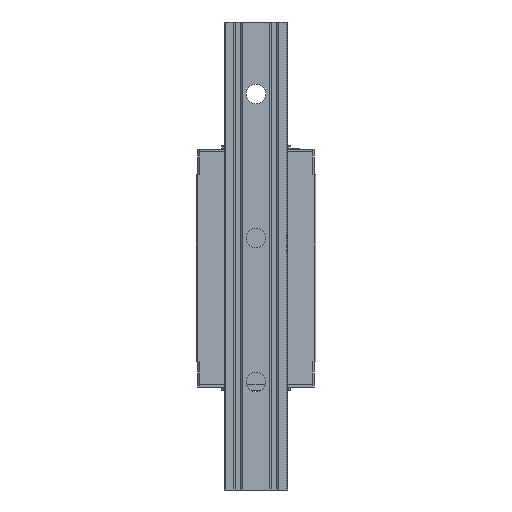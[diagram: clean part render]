
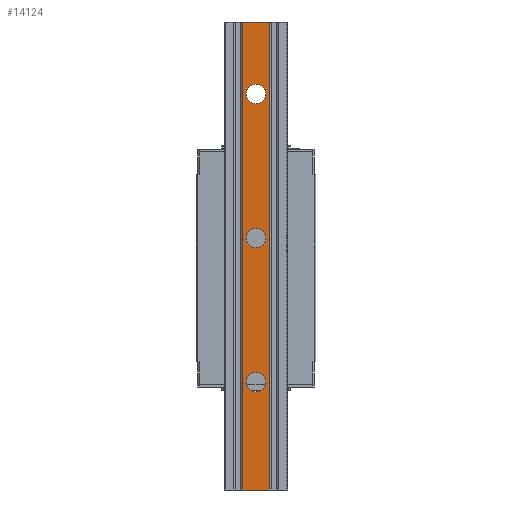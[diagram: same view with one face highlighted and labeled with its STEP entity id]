
A CAD part, front view. The second image highlights one B-rep face of the part: STEP entity #14124.
In plain terms, the highlighted planar face has unit normal (0, -1, 0).
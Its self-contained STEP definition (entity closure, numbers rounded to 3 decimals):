
#60 = LINE ( 'NONE', #5384, #15746 ) ;
#99 = ORIENTED_EDGE ( 'NONE', *, *, #13689, .T. ) ;
#294 = DIRECTION ( 'NONE',  ( 0., 0., 1. ) ) ;
#360 = EDGE_CURVE ( 'NONE', #8775, #13645, #4592, .T. ) ;
#419 = CARTESIAN_POINT ( 'NONE',  ( 0., 0., -52. ) ) ;
#465 = CARTESIAN_POINT ( 'NONE',  ( 0., 0., -60. ) ) ;
#486 = CARTESIAN_POINT ( 'NONE',  ( 11.357, 0., 0. ) ) ;
#826 = FACE_OUTER_BOUND ( 'NONE', #4667, .T. ) ;
#886 = VERTEX_POINT ( 'NONE', #8551 ) ;
#1062 = EDGE_CURVE ( 'NONE', #1435, #8775, #60, .T. ) ;
#1208 = DIRECTION ( 'NONE',  ( 0., 1., 0. ) ) ;
#1279 = EDGE_CURVE ( 'NONE', #3085, #6221, #10754, .T. ) ;
#1421 = CARTESIAN_POINT ( 'NONE',  ( 0., 0., -180. ) ) ;
#1435 = VERTEX_POINT ( 'NONE', #486 ) ;
#1952 = DIRECTION ( 'NONE',  ( 0., 1., 0. ) ) ;
#2003 = LINE ( 'NONE', #15290, #5419 ) ;
#2060 = DIRECTION ( 'NONE',  ( 0., -1., 0. ) ) ;
#2261 = DIRECTION ( 'NONE',  ( 0., 0., 1. ) ) ;
#2303 = PLANE ( 'NONE',  #15375 ) ;
#2452 = LINE ( 'NONE', #17201, #10060 ) ;
#2475 = DIRECTION ( 'NONE',  ( 0., 0., 1. ) ) ;
#2485 = DIRECTION ( 'NONE',  ( -1., 0., 0. ) ) ;
#2808 = CIRCLE ( 'NONE', #13722, 8. ) ;
#2997 = CARTESIAN_POINT ( 'NONE',  ( 0., 0., -180. ) ) ;
#3085 = VERTEX_POINT ( 'NONE', #7676 ) ;
#3192 = AXIS2_PLACEMENT_3D ( 'NONE', #6095, #1952, #16886 ) ;
#3794 = DIRECTION ( 'NONE',  ( 0., 0., -1. ) ) ;
#4186 = ORIENTED_EDGE ( 'NONE', *, *, #1062, .T. ) ;
#4211 = EDGE_CURVE ( 'NONE', #10090, #15950, #11887, .T. ) ;
#4592 = LINE ( 'NONE', #13940, #12955 ) ;
#4667 = EDGE_LOOP ( 'NONE', ( #8690, #6143, #6021, #4186 ) ) ;
#4692 = FACE_BOUND ( 'NONE', #16792, .T. ) ;
#4703 = EDGE_CURVE ( 'NONE', #13645, #16209, #2003, .T. ) ;
#5149 = EDGE_CURVE ( 'NONE', #16209, #1435, #2452, .T. ) ;
#5295 = DIRECTION ( 'NONE',  ( 0., 1., 0. ) ) ;
#5371 = CARTESIAN_POINT ( 'NONE',  ( 0., 0., -60. ) ) ;
#5384 = CARTESIAN_POINT ( 'NONE',  ( 26.5, 0., 0. ) ) ;
#5391 = ORIENTED_EDGE ( 'NONE', *, *, #11734, .T. ) ;
#5419 = VECTOR ( 'NONE', #12710, 1000. ) ;
#6021 = ORIENTED_EDGE ( 'NONE', *, *, #5149, .T. ) ;
#6095 = CARTESIAN_POINT ( 'NONE',  ( 0., 0., -300. ) ) ;
#6143 = ORIENTED_EDGE ( 'NONE', *, *, #4703, .T. ) ;
#6179 = FACE_BOUND ( 'NONE', #10171, .T. ) ;
#6188 = CIRCLE ( 'NONE', #14280, 8. ) ;
#6221 = VERTEX_POINT ( 'NONE', #9383 ) ;
#6304 = CARTESIAN_POINT ( 'NONE',  ( 0., 0., -188. ) ) ;
#6526 = DIRECTION ( 'NONE',  ( 0., 1., 0. ) ) ;
#6612 = ORIENTED_EDGE ( 'NONE', *, *, #14211, .T. ) ;
#6800 = DIRECTION ( 'NONE',  ( 0., 0., 1. ) ) ;
#7318 = CIRCLE ( 'NONE', #9546, 8. ) ;
#7676 = CARTESIAN_POINT ( 'NONE',  ( 0., 0., -308. ) ) ;
#7718 = ORIENTED_EDGE ( 'NONE', *, *, #1279, .T. ) ;
#8113 = DIRECTION ( 'NONE',  ( 0., 1., 0. ) ) ;
#8266 = DIRECTION ( 'NONE',  ( 0., 0., 1. ) ) ;
#8481 = ORIENTED_EDGE ( 'NONE', *, *, #4211, .T. ) ;
#8551 = CARTESIAN_POINT ( 'NONE',  ( 0., 0., -68. ) ) ;
#8690 = ORIENTED_EDGE ( 'NONE', *, *, #360, .T. ) ;
#8775 = VERTEX_POINT ( 'NONE', #14212 ) ;
#9383 = CARTESIAN_POINT ( 'NONE',  ( 0., 0., -292. ) ) ;
#9402 = ORIENTED_EDGE ( 'NONE', *, *, #16979, .T. ) ;
#9546 = AXIS2_PLACEMENT_3D ( 'NONE', #465, #6526, #8266 ) ;
#10060 = VECTOR ( 'NONE', #13089, 1000. ) ;
#10090 = VERTEX_POINT ( 'NONE', #6304 ) ;
#10171 = EDGE_LOOP ( 'NONE', ( #6612, #5391 ) ) ;
#10754 = CIRCLE ( 'NONE', #3192, 8. ) ;
#11426 = CARTESIAN_POINT ( 'NONE',  ( 11.357, 0., -390. ) ) ;
#11442 = FACE_BOUND ( 'NONE', #13568, .T. ) ;
#11734 = EDGE_CURVE ( 'NONE', #886, #14016, #7318, .T. ) ;
#11887 = CIRCLE ( 'NONE', #15491, 8. ) ;
#12047 = CIRCLE ( 'NONE', #14533, 8. ) ;
#12710 = DIRECTION ( 'NONE',  ( 1., 0., 0. ) ) ;
#12955 = VECTOR ( 'NONE', #3794, 1000. ) ;
#13089 = DIRECTION ( 'NONE',  ( 0., 0., 1. ) ) ;
#13140 = CARTESIAN_POINT ( 'NONE',  ( -11.357, 0., -390. ) ) ;
#13234 = CARTESIAN_POINT ( 'NONE',  ( 0., 0., -300. ) ) ;
#13568 = EDGE_LOOP ( 'NONE', ( #9402, #8481 ) ) ;
#13645 = VERTEX_POINT ( 'NONE', #13140 ) ;
#13689 = EDGE_CURVE ( 'NONE', #6221, #3085, #12047, .T. ) ;
#13722 = AXIS2_PLACEMENT_3D ( 'NONE', #1421, #5295, #6800 ) ;
#13940 = CARTESIAN_POINT ( 'NONE',  ( -11.357, 0., -2828.884 ) ) ;
#14016 = VERTEX_POINT ( 'NONE', #419 ) ;
#14050 = CARTESIAN_POINT ( 'NONE',  ( -26.5, 0., -2828.884 ) ) ;
#14124 = ADVANCED_FACE ( 'NONE', ( #4692, #11442, #6179, #826 ), #2303, .T. ) ;
#14211 = EDGE_CURVE ( 'NONE', #14016, #886, #6188, .T. ) ;
#14212 = CARTESIAN_POINT ( 'NONE',  ( -11.357, 0., 0. ) ) ;
#14280 = AXIS2_PLACEMENT_3D ( 'NONE', #5371, #8113, #2475 ) ;
#14533 = AXIS2_PLACEMENT_3D ( 'NONE', #13234, #1208, #2261 ) ;
#14798 = DIRECTION ( 'NONE',  ( 0., 1., 0. ) ) ;
#15290 = CARTESIAN_POINT ( 'NONE',  ( -26.5, 0., -390. ) ) ;
#15375 = AXIS2_PLACEMENT_3D ( 'NONE', #14050, #2060, #15430 ) ;
#15430 = DIRECTION ( 'NONE',  ( 0., 0., -1. ) ) ;
#15491 = AXIS2_PLACEMENT_3D ( 'NONE', #2997, #14798, #294 ) ;
#15565 = CARTESIAN_POINT ( 'NONE',  ( 0., 0., -172. ) ) ;
#15746 = VECTOR ( 'NONE', #2485, 1000. ) ;
#15950 = VERTEX_POINT ( 'NONE', #15565 ) ;
#16209 = VERTEX_POINT ( 'NONE', #11426 ) ;
#16792 = EDGE_LOOP ( 'NONE', ( #99, #7718 ) ) ;
#16886 = DIRECTION ( 'NONE',  ( 0., 0., 1. ) ) ;
#16979 = EDGE_CURVE ( 'NONE', #15950, #10090, #2808, .T. ) ;
#17201 = CARTESIAN_POINT ( 'NONE',  ( 11.357, 0., -2760. ) ) ;
